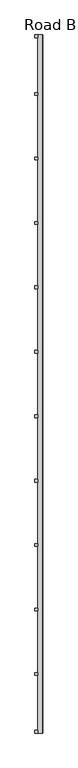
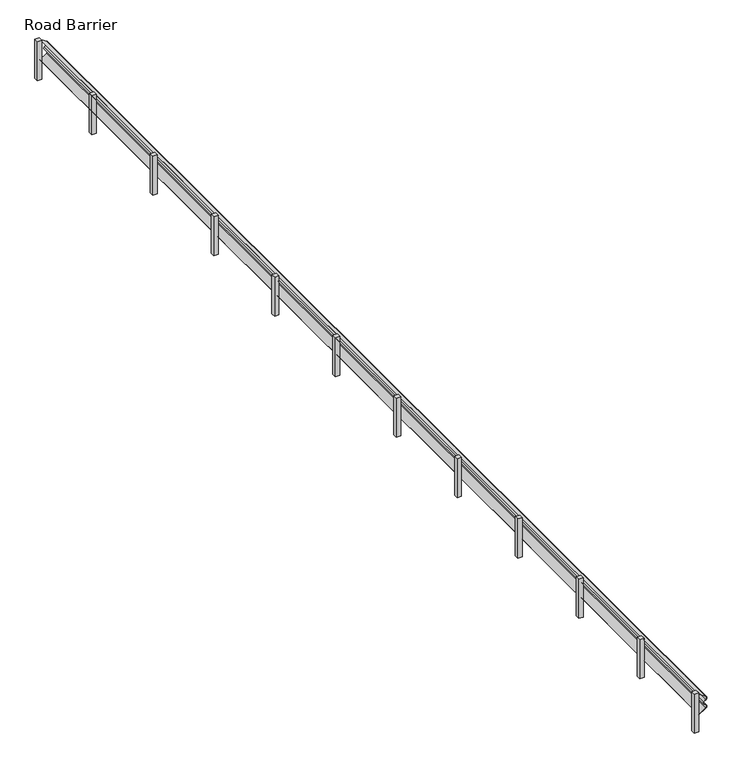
"""IFC4 building model written with IfcOpenShell, lengths in millimetres: railing geometry, Road Barrier."""

from ifc_helpers import new_model, si_unit, point, frame, frame_2d, origin, origin_with_axes, place, context, project, spatial, polyline, circle_curve, trimmed, segment, composite_curve, outline, extrude, source, transform, mapped, element, save


def road_barrier_216ef637(model_context):
    return source(origin(), model_context, "Body", "SweptSolid", [
        extrude(outline(composite_curve([segment(polyline([(396.5464976, 55637.6805097), (450.0, 55558.4324334), (447.5128873, 55556.7548547), (394.0593849, 55636.002931)]), True, "CONTINUOUS"), segment(trimmed(circle_curve(frame_2d((375.8205583, 55623.7006871)), 22.0), [point((394.0593849, 55636.002931))], [point((358.4843217, 55637.2452395))], True, "CARTESIAN"), True, "CONTINUOUS"), segment(polyline([(358.4843217, 55637.2452395), (339.1841936, 55612.542202)]), True, "CONTINUOUS"), segment(trimmed(circle_curve(frame_2d((325.0, 55623.6241086)), 18.0), [point((339.1841936, 55612.542202))], [point((310.8158064, 55612.542202))], False, "CARTESIAN"), True, "CONTINUOUS"), segment(polyline([(310.8158064, 55612.542202), (291.5156783, 55637.2452395)]), True, "CONTINUOUS"), segment(trimmed(circle_curve(frame_2d((274.1794417, 55623.7006871)), 22.0), [point((291.5156783, 55637.2452395))], [point((255.9406151, 55636.002931))], True, "CARTESIAN"), True, "CONTINUOUS"), segment(polyline([(255.9406151, 55636.002931), (202.4871127, 55556.7548547), (200.0, 55558.4324334), (253.4535024, 55637.6805097)]), True, "CONTINUOUS"), segment(trimmed(circle_curve(frame_2d((274.1794417, 55623.7006871)), 25.0), [point((253.4535024, 55637.6805097))], [point((293.8797105, 55639.092224))], False, "CARTESIAN"), True, "CONTINUOUS"), segment(polyline([(293.8797105, 55639.092224), (313.1798387, 55614.3891864)]), True, "CONTINUOUS"), segment(trimmed(circle_curve(frame_2d((325.0, 55623.6241086)), 15.0), [point((313.1798387, 55614.3891864))], [point((336.8201613, 55614.3891864))], True, "CARTESIAN"), True, "CONTINUOUS"), segment(polyline([(336.8201613, 55614.3891864), (356.1202895, 55639.092224)]), True, "CONTINUOUS"), segment(trimmed(circle_curve(frame_2d((375.8205583, 55623.7006871)), 25.0), [point((356.1202895, 55639.092224))], [point((396.5464976, 55637.6805097))], False, "CARTESIAN"), True, "CONTINUOUS")], self_intersect=False)), frame((0.0, -56479.0868221, 0.0), z_axis=(0.0, 1.0, 0.0), x_axis=(0.0, 0.0, 1.0)), (0.0, 0.0, 1.0), 13000.0),
        extrude(outline(polyline([(55553.4324334, -44604.0868221), (55503.4324334, -44604.0868221), (55503.4324334, -44554.0868221), (55553.4324334, -44554.0868221), (55553.4324334, -44604.0868221)])), origin_with_axes(), (0.0, 0.0, 1.0), 470.0),
        extrude(outline(polyline([(55553.4324334, -45804.0868221), (55503.4324334, -45804.0868221), (55503.4324334, -45754.0868221), (55553.4324334, -45754.0868221), (55553.4324334, -45804.0868221)])), origin_with_axes(), (0.0, 0.0, 1.0), 470.0),
        extrude(outline(polyline([(55553.4324334, -47004.0868221), (55503.4324334, -47004.0868221), (55503.4324334, -46954.0868221), (55553.4324334, -46954.0868221), (55553.4324334, -47004.0868221)])), origin_with_axes(), (0.0, 0.0, 1.0), 470.0),
        extrude(outline(polyline([(55553.4324334, -48204.0868221), (55503.4324334, -48204.0868221), (55503.4324334, -48154.0868221), (55553.4324334, -48154.0868221), (55553.4324334, -48204.0868221)])), origin_with_axes(), (0.0, 0.0, 1.0), 470.0),
        extrude(outline(polyline([(55553.4324334, -49404.0868221), (55503.4324334, -49404.0868221), (55503.4324334, -49354.0868221), (55553.4324334, -49354.0868221), (55553.4324334, -49404.0868221)])), origin_with_axes(), (0.0, 0.0, 1.0), 470.0),
        extrude(outline(polyline([(55553.4324334, -50604.0868221), (55503.4324334, -50604.0868221), (55503.4324334, -50554.0868221), (55553.4324334, -50554.0868221), (55553.4324334, -50604.0868221)])), origin_with_axes(), (0.0, 0.0, 1.0), 470.0),
        extrude(outline(polyline([(55553.4324334, -51804.0868221), (55503.4324334, -51804.0868221), (55503.4324334, -51754.0868221), (55553.4324334, -51754.0868221), (55553.4324334, -51804.0868221)])), origin_with_axes(), (0.0, 0.0, 1.0), 470.0),
        extrude(outline(polyline([(55553.4324334, -53004.0868221), (55503.4324334, -53004.0868221), (55503.4324334, -52954.0868221), (55553.4324334, -52954.0868221), (55553.4324334, -53004.0868221)])), origin_with_axes(), (0.0, 0.0, 1.0), 470.0),
        extrude(outline(polyline([(55553.4324334, -54204.0868221), (55503.4324334, -54204.0868221), (55503.4324334, -54154.0868221), (55553.4324334, -54154.0868221), (55553.4324334, -54204.0868221)])), origin_with_axes(), (0.0, 0.0, 1.0), 470.0),
        extrude(outline(polyline([(55553.4324334, -55404.0868221), (55503.4324334, -55404.0868221), (55503.4324334, -55354.0868221), (55553.4324334, -55354.0868221), (55553.4324334, -55404.0868221)])), origin_with_axes(), (0.0, 0.0, 1.0), 470.0),
        extrude(outline(polyline([(55553.4324334, -43529.0868221), (55503.4324334, -43529.0868221), (55503.4324334, -43479.0868221), (55553.4324334, -43479.0868221), (55553.4324334, -43529.0868221)])), origin_with_axes(), (0.0, 0.0, 1.0), 470.0),
        extrude(outline(polyline([(55553.4324334, -56479.0868221), (55503.4324334, -56479.0868221), (55503.4324334, -56429.0868221), (55553.4324334, -56429.0868221), (55553.4324334, -56479.0868221)])), origin_with_axes(), (0.0, 0.0, 1.0), 470.0),
    ])


if __name__ == "__main__":
    model = new_model("IFC4")
    model_context = context("Model", 3, world=origin())
    ifc_project = project(units=[si_unit("LENGTHUNIT", "METRE", prefix="MILLI")], contexts=[model_context])
    site = spatial("IfcSite", under=ifc_project)
    building = spatial("IfcBuilding", under=site)
    placement = place(None, origin())
    road_barrier_shape = road_barrier_216ef637(model_context)
    element("IfcRailing", 1, ObjectType="Road Barrier", at=placement, inside=building, context=model_context, shape_type="MappedRepresentation", body=[
        mapped(road_barrier_shape, transform((0.0, 0.0, 0.0), x_axis=(1.0, 0.0, 0.0), y_axis=(0.0, 1.0, 0.0), z_axis=(0.0, 0.0, 1.0))),
    ])
    save(model, "model.ifc")
